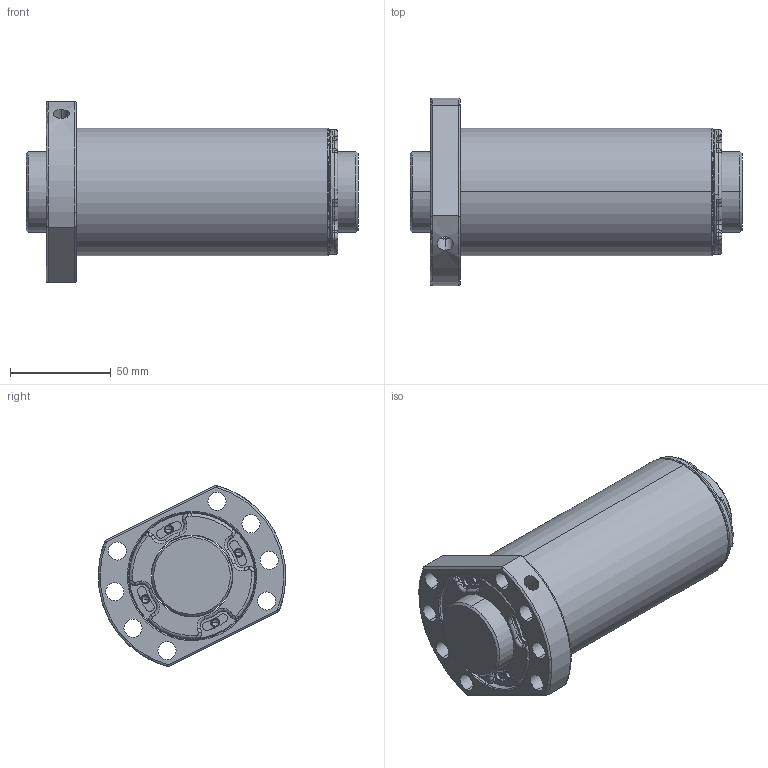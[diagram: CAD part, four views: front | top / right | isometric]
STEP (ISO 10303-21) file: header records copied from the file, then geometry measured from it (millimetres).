
FILE_DESCRIPTION (( 'STEP AP203' ), '1' );
FILE_NAME ('SFSR04040B1D-C.STEP', '2020-06-17T01:52:53', ( '' ), ( '' ), 'SwSTEP 2.0', 'SolidWorks 2013', '' );
FILE_SCHEMA (( 'CONFIG_CONTROL_DESIGN' ));
Length unit declared in the file: millimetre
Products named in the file (1): SFSR04040B1D-C
Bounding box: 164.5 x 92.89 x 89.97 mm (x, y, z)
Volume: 480897.2 mm3; surface area: 86622 mm2
Topology: 2 solids, 2 shells, 376 faces, 954 edges, 586 vertices
Faces by surface type: cylinder 182, plane 84, torus 74, cone 36
Entity records: 13947 total; most frequent: CARTESIAN_POINT 4517, DIRECTION 2184, ORIENTED_EDGE 1876, AXIS2_PLACEMENT_3D 947, EDGE_CURVE 938, VERTEX_POINT 586, CIRCLE 570, EDGE_LOOP 418
